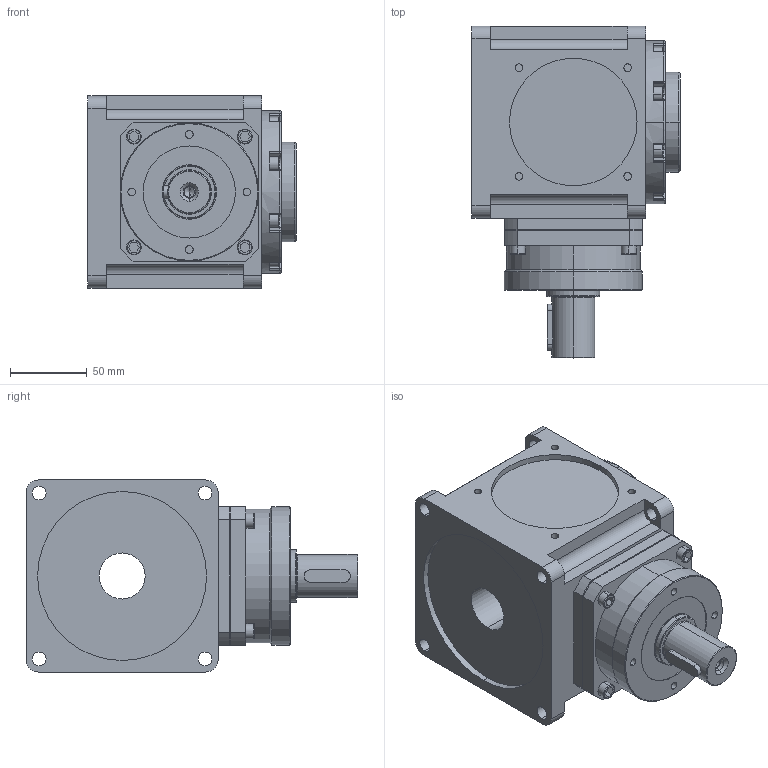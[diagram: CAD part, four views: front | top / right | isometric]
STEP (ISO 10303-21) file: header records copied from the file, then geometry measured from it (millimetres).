
FILE_DESCRIPTION (( 'STEP AP214' ), '1' );
FILE_NAME ('CCT125A-002-RF.STEP', '2025-05-23T05:57:22', ( '微软用户' ), ( '微软中国' ), 'SwSTEP 2.0', 'SolidWorks 2024', '' );
FILE_SCHEMA (( 'AUTOMOTIVE_DESIGN' ));
Length unit declared in the file: millimetre
Products named in the file (3): CCW125A-002-RF箱体; CCW125A输入组件; CCT125A-002-RF
Assembly tree (2 placements, depth 2):
  CCT125A-002-RF
    CCW125A-002-RF箱体
    CCW125A输入组件
Bounding box: 135.5 x 216 x 125 mm (x, y, z)
Volume: 1965723.2 mm3; surface area: 155276.5 mm2
Topology: 2 solids, 2 shells, 474 faces, 1112 edges, 690 vertices
Faces by surface type: plane 199, cylinder 194, torus 53, sphere 16, cone 12
Entity records: 13684 total; most frequent: DIRECTION 2558, CARTESIAN_POINT 2353, ORIENTED_EDGE 2188, EDGE_CURVE 1094, AXIS2_PLACEMENT_3D 995, VERTEX_POINT 690, VECTOR 568, LINE 568
